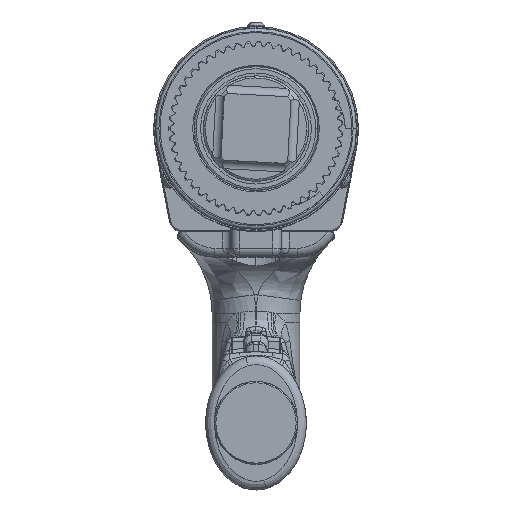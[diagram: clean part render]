
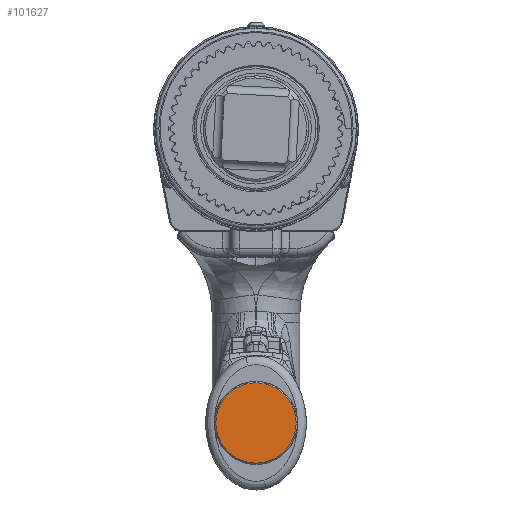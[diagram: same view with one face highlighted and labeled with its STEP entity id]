
A CAD part, top view. The second image highlights one B-rep face of the part: STEP entity #101627.
In plain terms, the highlighted planar face has unit normal (0, 0, 1).
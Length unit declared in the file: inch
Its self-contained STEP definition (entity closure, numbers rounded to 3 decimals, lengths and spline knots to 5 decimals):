
#11142 = DIRECTION ( 'NONE',  ( 1., 0., 0. ) ) ;
#14776 = CIRCLE ( 'NONE', #126801, 0.5995 ) ;
#23837 = CARTESIAN_POINT ( 'NONE',  ( -0.5995, -4.38937, 2.05527 ) ) ;
#32482 = AXIS2_PLACEMENT_3D ( 'NONE', #80701, #92133, #11142 ) ;
#33385 = DIRECTION ( 'NONE',  ( 0., 0., 1. ) ) ;
#40966 = DIRECTION ( 'NONE',  ( 1., 0., 0. ) ) ;
#41371 = EDGE_CURVE ( 'NONE', #76993, #52540, #14776, .T. ) ;
#43537 = ORIENTED_EDGE ( 'NONE', *, *, #41371, .T. ) ;
#44833 = CARTESIAN_POINT ( 'NONE',  ( 0., -4.38937, 2.05527 ) ) ;
#47254 = EDGE_CURVE ( 'NONE', #52540, #76993, #78269, .T. ) ;
#48892 = ORIENTED_EDGE ( 'NONE', *, *, #47254, .T. ) ;
#52540 = VERTEX_POINT ( 'NONE', #102403 ) ;
#71843 = PLANE ( 'NONE',  #32482 ) ;
#76993 = VERTEX_POINT ( 'NONE', #23837 ) ;
#78269 = CIRCLE ( 'NONE', #119188, 0.5995 ) ;
#80701 = CARTESIAN_POINT ( 'NONE',  ( 0., -4.38937, 2.05527 ) ) ;
#82596 = EDGE_LOOP ( 'NONE', ( #43537, #48892 ) ) ;
#92133 = DIRECTION ( 'NONE',  ( 0., 0., 1. ) ) ;
#101552 = FACE_OUTER_BOUND ( 'NONE', #82596, .T. ) ;
#101627 = ADVANCED_FACE ( 'NONE', ( #101552 ), #71843, .T. ) ;
#102403 = CARTESIAN_POINT ( 'NONE',  ( 0.5995, -4.38937, 2.05527 ) ) ;
#117040 = DIRECTION ( 'NONE',  ( 1., 0., 0. ) ) ;
#119188 = AXIS2_PLACEMENT_3D ( 'NONE', #133371, #120606, #40966 ) ;
#120606 = DIRECTION ( 'NONE',  ( 0., 0., 1. ) ) ;
#126801 = AXIS2_PLACEMENT_3D ( 'NONE', #44833, #33385, #117040 ) ;
#133371 = CARTESIAN_POINT ( 'NONE',  ( 0., -4.38937, 2.05527 ) ) ;
